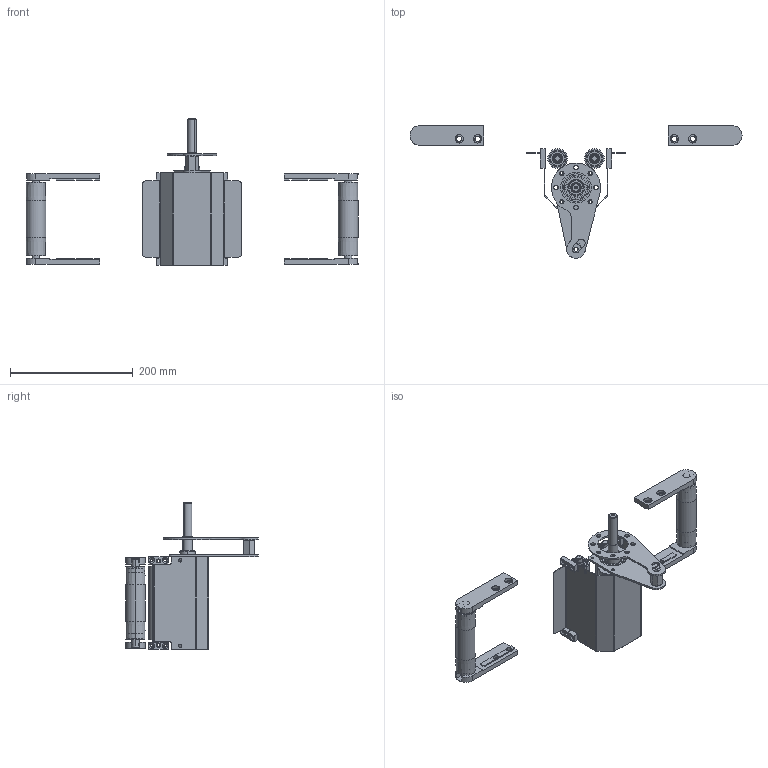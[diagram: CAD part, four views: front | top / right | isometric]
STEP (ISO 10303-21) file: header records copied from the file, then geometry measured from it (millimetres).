
FILE_DESCRIPTION (( 'STEP AP203' ), '1' );
FILE_NAME ('084.031.150.STEP', '2018-03-12T09:18:20', ( '' ), ( '' ), 'SwSTEP 2.0', 'SolidWorks 2016', '' );
FILE_SCHEMA (( 'CONFIG_CONTROL_DESIGN' ));
Length unit declared in the file: millimetre
Products named in the file (18): 084.802.027; 084.801.022; 084.031.010; 084.031.012; 084.802.017_084.802.017; 084.031.009; 084.031.150; 084.031.013; 356.001.003; 084.801.016 DX; 084.801.016 SX; 084.802.016_084.802.016; 084.802.036; 084.031.008_Default<A macchina>; 084.031.011; 084.807.005; 356.095.003; 084.031.004
Assembly tree (34 placements, depth 2):
  084.031.150
    084.031.008_Default<A macchina>
    084.031.009  x2
    084.031.010  x2
    084.031.004
    084.031.011
    084.031.012  x2
    084.031.013  x2
    084.802.036  x8
    084.802.017_084.802.017
    084.802.016_084.802.016
    356.001.003  x2
    356.095.003  x4
    084.801.022
    084.802.027
    084.807.005
    084.801.016 DX  x2
    084.801.016 SX  x2
Bounding box: 540 x 215.9 x 239 mm (x, y, z)
Volume: 552659.3 mm3; surface area: 407670.8 mm2
Topology: 44 solids, 54 shells, 1095 faces, 2515 edges, 1575 vertices
Faces by surface type: cylinder 522, plane 341, torus 164, cone 64, sphere 4
Entity records: 19801 total; most frequent: CARTESIAN_POINT 3627, DIRECTION 3155, ORIENTED_EDGE 2686, EDGE_CURVE 1343, AXIS2_PLACEMENT_3D 1271, VERTEX_POINT 855, EDGE_LOOP 684, CIRCLE 674
